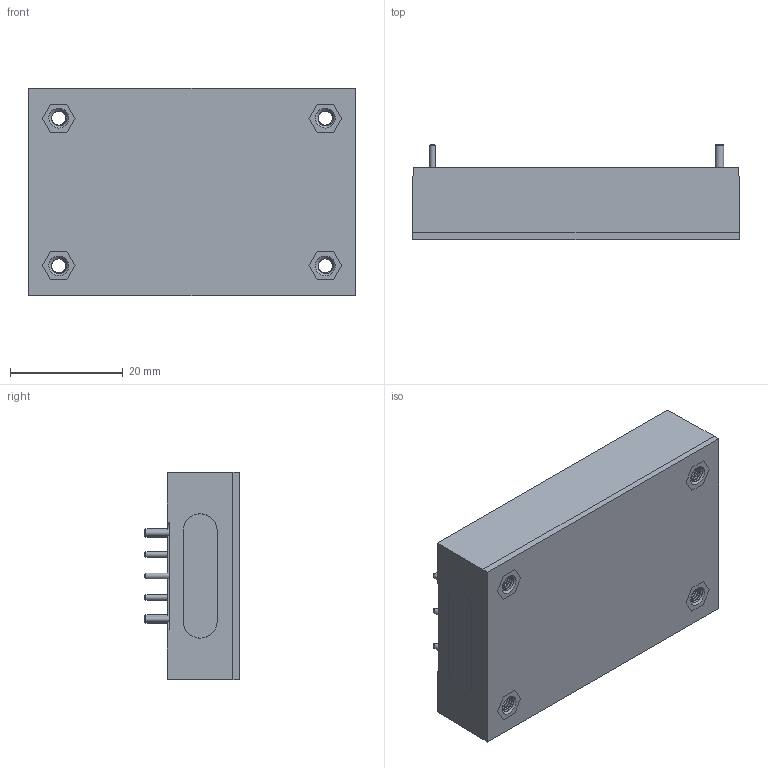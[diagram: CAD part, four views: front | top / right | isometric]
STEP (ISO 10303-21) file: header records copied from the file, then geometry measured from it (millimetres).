
FILE_DESCRIPTION (( 'STEP AP203' ), '1' );
FILE_NAME ('CQB75W 2016,11,24.STEP', '2023-02-20T03:08:40', ( '' ), ( '' ), 'SwSTEP 2.0', 'SolidWorks 2020', '' );
FILE_SCHEMA (( 'CONFIG_CONTROL_DESIGN' ));
Length unit declared in the file: millimetre
Products named in the file (6): CQB75W SINGLE SERIES銅柱(M-C420-01-J)M3 2016,11,22; PKQ75 CASE(M-C116-04-M) 2016,11,22; CQB75W 2016,11,24; CQB75W SINGLE SERIES 鋁板(M-C420-01-J) 2016,11,22; CQB100W 圓PIN加灌膠  2016,11,22
Assembly tree (8 placements, depth 3):
  CQB75W 2016,11,24
    CQB75W SINGLE SERIES 鋁板(M-C420-01-J) 2016,11,22
      CQB75W SINGLE SERIES 鋁板(M-C420-01-J) 2016,11,22
      CQB75W SINGLE SERIES銅柱(M-C420-01-J)M3 2016,11,22  x4
    CQB100W 圓PIN加灌膠  2016,11,22
    PKQ75 CASE(M-C116-04-M) 2016,11,22
Bounding box: 57.9 x 16.9 x 36.8 mm (x, y, z)
Volume: 26683.7 mm3; surface area: 20657.1 mm2
Topology: 7 solids, 7 shells, 573 faces, 1501 edges, 1001 vertices
Faces by surface type: plane 374, bspline 131, cylinder 36, cone 32
Full cylindrical faces by diameter (mm): 1.02 x6, 1.5 x2, 3.9 x4, 4 x4, 4.2 x4, 4.5 x4
Entity records: 25178 total; most frequent: CARTESIAN_POINT 12526, ORIENTED_EDGE 2642, DIRECTION 1958, EDGE_CURVE 1321, LINE 948, VECTOR 948, VERTEX_POINT 904, EDGE_LOOP 663
